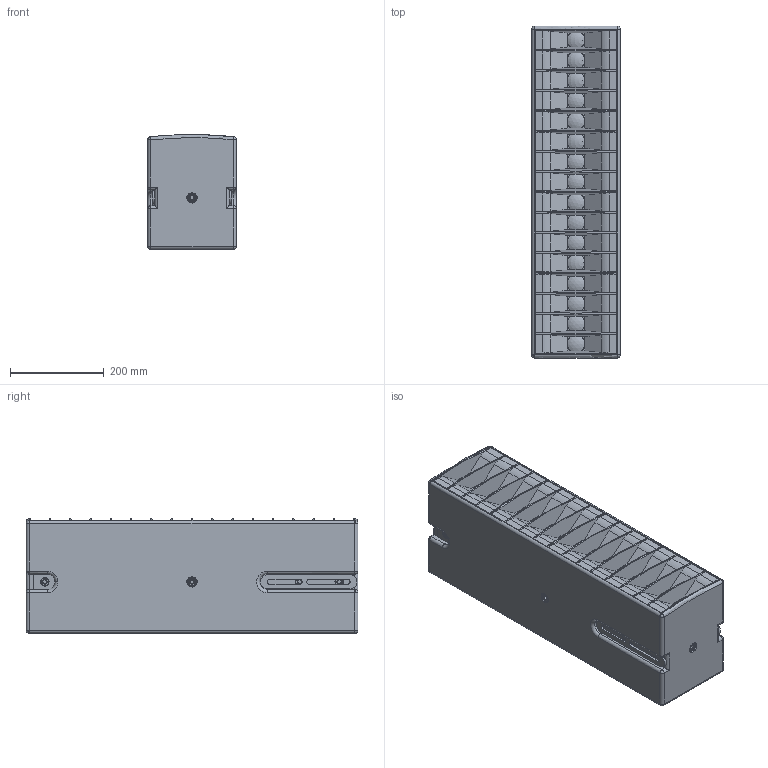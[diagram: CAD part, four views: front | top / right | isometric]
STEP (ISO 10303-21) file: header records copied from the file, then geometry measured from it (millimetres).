
FILE_DESCRIPTION (( 'STEP AP203' ), '1' );
FILE_NAME ('Seeburg_GL16i.STEP', '2012-10-15T13:25:25', ( 'Fabian' ), ( '' ), 'SwSTEP 2.0', 'SolidWorks 2009', '' );
FILE_SCHEMA (( 'CONFIG_CONTROL_DESIGN' ));
Length unit declared in the file: millimetre
Products named in the file (2): GL16i; Seeburg_GL16i
Assembly tree (1 placements, depth 2):
  Seeburg_GL16i
    GL16i
Bounding box: 189 x 708 x 245 mm (x, y, z)
Volume: 10355385.8 mm3; surface area: 1772737.5 mm2
Topology: 50 solids, 50 shells, 1015 faces, 2543 edges, 1616 vertices
Faces by surface type: plane 468, cylinder 410, cone 84, sphere 41, torus 12
Entity records: 32235 total; most frequent: CARTESIAN_POINT 7588, DIRECTION 5249, ORIENTED_EDGE 5024, EDGE_CURVE 2512, AXIS2_PLACEMENT_3D 1907, VERTEX_POINT 1598, VECTOR 1435, LINE 1435
